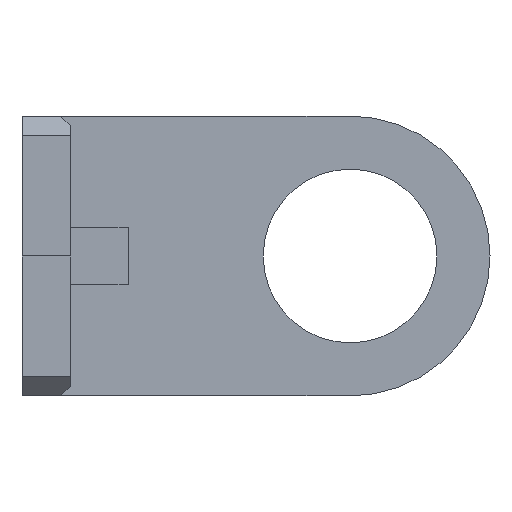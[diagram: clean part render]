
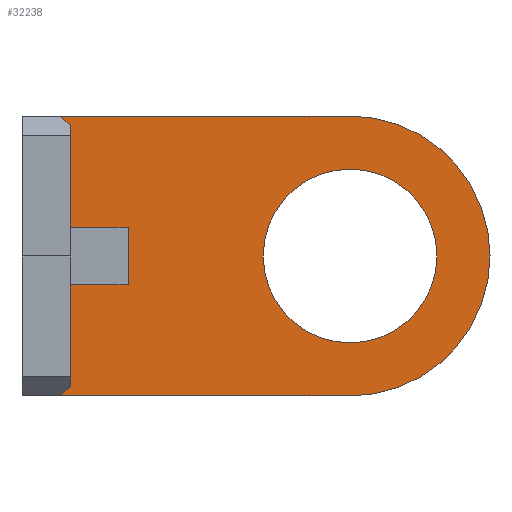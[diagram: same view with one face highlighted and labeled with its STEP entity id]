
A CAD part, left-side view. The second image highlights one B-rep face of the part: STEP entity #32238.
In plain terms, the highlighted planar face has unit normal (-1, 0, 0).
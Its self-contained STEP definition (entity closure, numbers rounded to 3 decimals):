
#2100=CIRCLE('',#34849,14.5);
#2105=CIRCLE('',#34856,14.5);
#2106=CIRCLE('',#34857,9.);
#2107=CIRCLE('',#34858,9.);
#2754=FACE_BOUND('',#7287,.T.);
#3779=B_SPLINE_CURVE_WITH_KNOTS('',3,(#60299,#60300,#60301,#60302,#60303,
#60304,#60305,#60306,#60307,#60308,#60309,#60310,#60311,#60312),
 .UNSPECIFIED.,.F.,.F.,(4,2,2,2,2,2,4),(-8877.219,-4324.823,
-2048.624,-910.524,-341.475,-75.671,
0.),.UNSPECIFIED.);
#3780=B_SPLINE_CURVE_WITH_KNOTS('',3,(#60328,#60329,#60330,#60331,#60332,
#60333,#60334,#60335,#60336,#60337,#60338,#60339,#60340,#60341),
 .UNSPECIFIED.,.F.,.F.,(4,2,2,2,2,2,4),(-8877.219,-4324.823,
-2048.624,-910.524,-341.475,-75.671,
0.),.UNSPECIFIED.);
#5433=FACE_OUTER_BOUND('',#7286,.T.);
#7286=EDGE_LOOP('',(#29562,#29563,#29564,#29565,#29566,#29567,#29568,#29569,
#29570,#29571,#29572));
#7287=EDGE_LOOP('',(#29573,#29574));
#9598=LINE('',#60314,#12026);
#9599=LINE('',#60316,#12027);
#9600=LINE('',#60318,#12028);
#9601=LINE('',#60320,#12029);
#9602=LINE('',#60322,#12030);
#9603=LINE('',#60324,#12031);
#9604=LINE('',#60326,#12032);
#12026=VECTOR('',#42193,0.01);
#12027=VECTOR('',#42194,0.01);
#12028=VECTOR('',#42195,0.01);
#12029=VECTOR('',#42196,0.01);
#12030=VECTOR('',#42197,0.01);
#12031=VECTOR('',#42198,0.01);
#12032=VECTOR('',#42199,0.01);
#15323=VERTEX_POINT('',#60266);
#15324=VERTEX_POINT('',#60267);
#15330=VERTEX_POINT('',#60298);
#15331=VERTEX_POINT('',#60313);
#15332=VERTEX_POINT('',#60315);
#15333=VERTEX_POINT('',#60317);
#15334=VERTEX_POINT('',#60319);
#15335=VERTEX_POINT('',#60321);
#15336=VERTEX_POINT('',#60323);
#15337=VERTEX_POINT('',#60325);
#15338=VERTEX_POINT('',#60327);
#15339=VERTEX_POINT('',#60343);
#15340=VERTEX_POINT('',#60344);
#20092=EDGE_CURVE('',#15323,#15324,#2100,.T.);
#20101=EDGE_CURVE('',#15330,#15323,#3779,.T.);
#20102=EDGE_CURVE('',#15331,#15330,#9598,.T.);
#20103=EDGE_CURVE('',#15332,#15331,#9599,.T.);
#20104=EDGE_CURVE('',#15333,#15332,#9600,.T.);
#20105=EDGE_CURVE('',#15333,#15334,#9601,.T.);
#20106=EDGE_CURVE('',#15334,#15335,#9602,.T.);
#20107=EDGE_CURVE('',#15335,#15336,#9603,.T.);
#20108=EDGE_CURVE('',#15336,#15337,#9604,.T.);
#20109=EDGE_CURVE('',#15337,#15338,#3780,.T.);
#20110=EDGE_CURVE('',#15338,#15324,#2105,.T.);
#20111=EDGE_CURVE('',#15339,#15340,#2106,.T.);
#20112=EDGE_CURVE('',#15339,#15340,#2107,.T.);
#29562=ORIENTED_EDGE('',*,*,#20092,.F.);
#29563=ORIENTED_EDGE('',*,*,#20101,.F.);
#29564=ORIENTED_EDGE('',*,*,#20102,.F.);
#29565=ORIENTED_EDGE('',*,*,#20103,.F.);
#29566=ORIENTED_EDGE('',*,*,#20104,.F.);
#29567=ORIENTED_EDGE('',*,*,#20105,.T.);
#29568=ORIENTED_EDGE('',*,*,#20106,.T.);
#29569=ORIENTED_EDGE('',*,*,#20107,.T.);
#29570=ORIENTED_EDGE('',*,*,#20108,.T.);
#29571=ORIENTED_EDGE('',*,*,#20109,.T.);
#29572=ORIENTED_EDGE('',*,*,#20110,.T.);
#29573=ORIENTED_EDGE('',*,*,#20111,.T.);
#29574=ORIENTED_EDGE('',*,*,#20112,.F.);
#30524=PLANE('',#34855);
#32238=ADVANCED_FACE('',(#5433,#2754),#30524,.F.);
#34849=AXIS2_PLACEMENT_3D('',#60268,#42177,#42178);
#34855=AXIS2_PLACEMENT_3D('',#60297,#42191,#42192);
#34856=AXIS2_PLACEMENT_3D('',#60342,#42200,#42201);
#34857=AXIS2_PLACEMENT_3D('',#60345,#42202,#42203);
#34858=AXIS2_PLACEMENT_3D('',#60346,#42204,#42205);
#42177=DIRECTION('center_axis',(1.,0.,0.));
#42178=DIRECTION('ref_axis',(0.,0.,1.));
#42191=DIRECTION('center_axis',(1.,0.,0.));
#42192=DIRECTION('ref_axis',(0.,0.,-1.));
#42193=DIRECTION('',(0.,0.707,0.707));
#42194=DIRECTION('',(0.,0.,1.));
#42195=DIRECTION('',(0.,1.,0.));
#42196=DIRECTION('',(0.,0.,-1.));
#42197=DIRECTION('',(0.,1.,0.));
#42198=DIRECTION('',(0.,0.,-1.));
#42199=DIRECTION('',(0.,0.707,-0.707));
#42200=DIRECTION('center_axis',(-1.,0.,0.));
#42201=DIRECTION('ref_axis',(0.,0.,-1.));
#42202=DIRECTION('center_axis',(1.,0.,0.));
#42203=DIRECTION('ref_axis',(0.,1.,0.));
#42204=DIRECTION('center_axis',(-1.,0.,0.));
#42205=DIRECTION('ref_axis',(0.,1.,0.));
#60266=CARTESIAN_POINT('',(-64935.,10966.001,3014.499));
#60267=CARTESIAN_POINT('',(-64935.,10951.5,2999.999));
#60268=CARTESIAN_POINT('Origin',(-64935.,10966.,2999.999));
#60297=CARTESIAN_POINT('Origin',(-64935.,10974.026,3007.538));
#60298=CARTESIAN_POINT('',(-64935.,10996.,3014.499));
#60299=CARTESIAN_POINT('Ctrl Pts',(-64935.,10996.,3014.499));
#60300=CARTESIAN_POINT('Ctrl Pts',(-64935.,10991.,3014.499));
#60301=CARTESIAN_POINT('Ctrl Pts',(-64935.,10986.,3014.499));
#60302=CARTESIAN_POINT('Ctrl Pts',(-64935.,10978.501,3014.499));
#60303=CARTESIAN_POINT('Ctrl Pts',(-64935.,10976.001,3014.499));
#60304=CARTESIAN_POINT('Ctrl Pts',(-64935.,10972.251,3014.499));
#60305=CARTESIAN_POINT('Ctrl Pts',(-64935.,10971.001,3014.499));
#60306=CARTESIAN_POINT('Ctrl Pts',(-64935.,10969.126,3014.499));
#60307=CARTESIAN_POINT('Ctrl Pts',(-64935.,10968.501,3014.499));
#60308=CARTESIAN_POINT('Ctrl Pts',(-64935.,10967.584,3014.499));
#60309=CARTESIAN_POINT('Ctrl Pts',(-64935.,10967.158,3014.499));
#60310=CARTESIAN_POINT('Ctrl Pts',(-64935.,10966.876,3014.499));
#60311=CARTESIAN_POINT('Ctrl Pts',(-64935.,10966.253,3014.499));
#60312=CARTESIAN_POINT('Ctrl Pts',(-64935.,10966.001,3014.499));
#60313=CARTESIAN_POINT('',(-64935.,10995.,3013.499));
#60314=CARTESIAN_POINT('',(-64935.,10995.,3013.499));
#60315=CARTESIAN_POINT('',(-64935.,10995.,3002.999));
#60316=CARTESIAN_POINT('',(-64935.,10995.,3007.139));
#60317=CARTESIAN_POINT('',(-64935.,10989.,3002.999));
#60318=CARTESIAN_POINT('',(-64935.,10983.02,3002.999));
#60319=CARTESIAN_POINT('',(-64935.,10989.,2996.999));
#60320=CARTESIAN_POINT('',(-64935.,10989.,2994.73));
#60321=CARTESIAN_POINT('',(-64935.,10995.,2996.999));
#60322=CARTESIAN_POINT('',(-64935.,10983.02,2996.999));
#60323=CARTESIAN_POINT('',(-64935.,10995.,2986.499));
#60324=CARTESIAN_POINT('',(-64935.,10995.,2992.86));
#60325=CARTESIAN_POINT('',(-64935.,10996.,2985.499));
#60326=CARTESIAN_POINT('',(-64935.,10995.,2986.499));
#60327=CARTESIAN_POINT('',(-64935.,10966.001,2985.499));
#60328=CARTESIAN_POINT('Ctrl Pts',(-64935.,10996.,2985.499));
#60329=CARTESIAN_POINT('Ctrl Pts',(-64935.,10991.,2985.499));
#60330=CARTESIAN_POINT('Ctrl Pts',(-64935.,10986.,2985.499));
#60331=CARTESIAN_POINT('Ctrl Pts',(-64935.,10978.501,2985.499));
#60332=CARTESIAN_POINT('Ctrl Pts',(-64935.,10976.001,2985.499));
#60333=CARTESIAN_POINT('Ctrl Pts',(-64935.,10972.251,2985.499));
#60334=CARTESIAN_POINT('Ctrl Pts',(-64935.,10971.001,2985.499));
#60335=CARTESIAN_POINT('Ctrl Pts',(-64935.,10969.126,2985.499));
#60336=CARTESIAN_POINT('Ctrl Pts',(-64935.,10968.501,2985.499));
#60337=CARTESIAN_POINT('Ctrl Pts',(-64935.,10967.584,2985.499));
#60338=CARTESIAN_POINT('Ctrl Pts',(-64935.,10967.158,2985.499));
#60339=CARTESIAN_POINT('Ctrl Pts',(-64935.,10966.876,2985.499));
#60340=CARTESIAN_POINT('Ctrl Pts',(-64935.,10966.253,2985.499));
#60341=CARTESIAN_POINT('Ctrl Pts',(-64935.,10966.001,2985.499));
#60342=CARTESIAN_POINT('Origin',(-64935.,10966.,2999.999));
#60343=CARTESIAN_POINT('',(-64935.,10957.,2999.999));
#60344=CARTESIAN_POINT('',(-64935.,10975.,2999.999));
#60345=CARTESIAN_POINT('Origin',(-64935.,10966.,2999.999));
#60346=CARTESIAN_POINT('Origin',(-64935.,10966.,2999.999));
